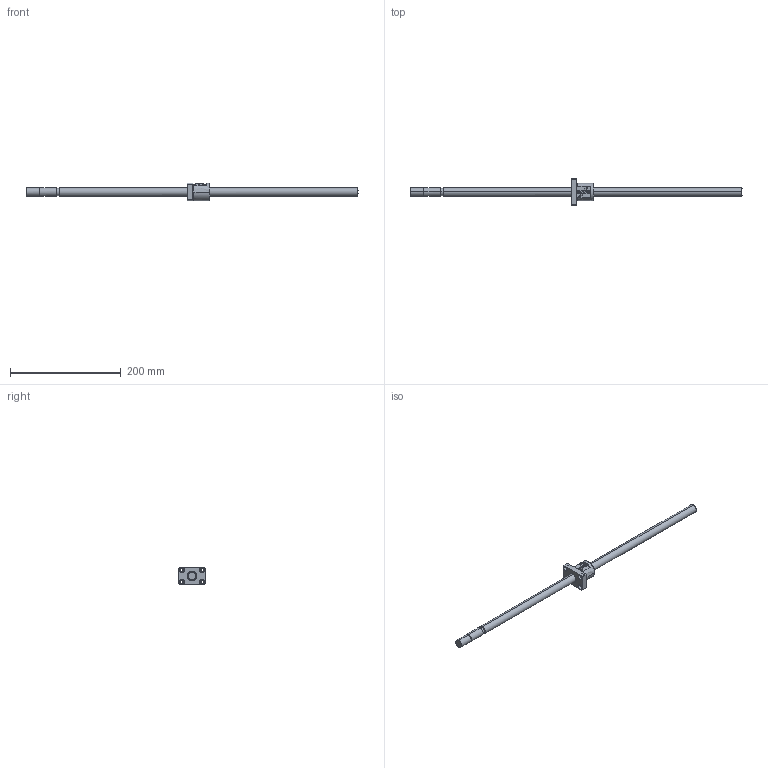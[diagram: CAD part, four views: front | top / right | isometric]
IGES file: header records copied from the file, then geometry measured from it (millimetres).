
Global section: file name: No Iges File Name specified; native system: AutoDesk Inventor R10; preprocessor: AutoDesk Inventor Iges Exporter R10; author: No Author specified; organization: No Organization specified; date: 20101224.140343; units: millimetre
Bounding box: 600 x 48 x 32 mm (x, y, z)
Surface area: 39231.5 mm2 (no closed solid volume)
Topology: 0 solids, 0 shells, 133 faces, 940 edges, 940 vertices
Faces by surface type: bspline 133
